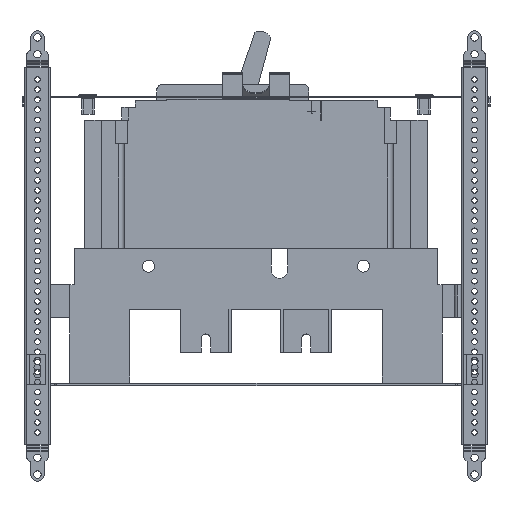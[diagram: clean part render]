
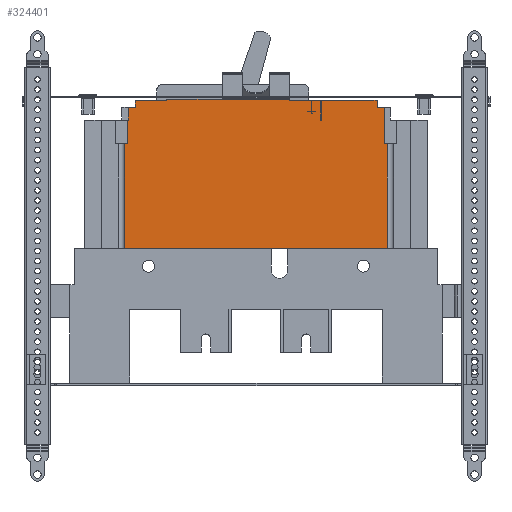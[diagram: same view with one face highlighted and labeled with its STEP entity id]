
A CAD part, left-side view. The second image highlights one B-rep face of the part: STEP entity #324401.
In plain terms, the highlighted planar face has unit normal (-1, 0, 0).
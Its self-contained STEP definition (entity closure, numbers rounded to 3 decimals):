
#322356=CARTESIAN_POINT(' ',(-214.311,-45.217,144.353));
#322361=DIRECTION(' ',(0.,1.,0.));
#322366=VECTOR(' ',#322361,1.);
#322371=LINE('',#322356,#322366);
#322376=CARTESIAN_POINT(' ',(-214.311,-45.217,144.353));
#322377=VERTEX_POINT(' ',#322376);
#322381=CARTESIAN_POINT(' ',(-214.311,-21.717,144.353));
#322382=VERTEX_POINT(' ',#322381);
#322386=EDGE_CURVE(' ',#322377,#322382,#322371,.T.);
#322796=CARTESIAN_POINT(' ',(-214.311,69.283,144.353));
#322797=VERTEX_POINT(' ',#322796);
#322941=CARTESIAN_POINT(' ',(-214.311,92.783,144.353));
#322942=VERTEX_POINT(' ',#322941);
#322956=CARTESIAN_POINT(' ',(-214.311,69.283,144.353));
#322961=DIRECTION(' ',(0.,1.,0.));
#322966=VECTOR(' ',#322961,1.);
#322971=LINE('',#322956,#322966);
#322976=EDGE_CURVE(' ',#322797,#322942,#322971,.T.);
#323151=CARTESIAN_POINT(' ',(-214.311,69.283,145.353));
#323156=DIRECTION(' ',(0.,0.,-1.));
#323161=VECTOR(' ',#323156,1.);
#323166=LINE('',#323151,#323161);
#323171=CARTESIAN_POINT(' ',(-214.311,69.283,145.353));
#323172=VERTEX_POINT(' ',#323171);
#323176=EDGE_CURVE(' ',#323172,#322797,#323166,.T.);
#323261=CARTESIAN_POINT(' ',(-214.311,69.283,145.353));
#323266=DIRECTION(' ',(0.,-1.,0.));
#323271=VECTOR(' ',#323266,1.);
#323276=LINE('',#323261,#323271);
#323281=CARTESIAN_POINT(' ',(-214.311,-21.717,145.353));
#323282=VERTEX_POINT(' ',#323281);
#323286=EDGE_CURVE(' ',#323172,#323282,#323276,.T.);
#323386=CARTESIAN_POINT(' ',(-214.311,-21.717,145.353));
#323391=DIRECTION(' ',(0.,0.,-1.));
#323396=VECTOR(' ',#323391,1.);
#323401=LINE('',#323386,#323396);
#323406=EDGE_CURVE(' ',#323282,#322382,#323401,.T.);
#323751=DIRECTION(' ',(-1.,0.,0.));
#323756=CARTESIAN_POINT(' ',(-214.311,-94.422,34.353));
#323761=DIRECTION(' ',(0.,-0.,1.));
#323766=AXIS2_PLACEMENT_3D(' ',#323756,#323751,#323761);
#323771=PLANE('NONE',#323766);
#323776=CARTESIAN_POINT(' ',(-214.311,-94.422,112.353));
#323781=DIRECTION(' ',(0.,1.,0.));
#323786=VECTOR(' ',#323781,1.);
#323791=LINE('',#323776,#323786);
#323796=CARTESIAN_POINT(' ',(-214.311,-94.422,112.353));
#323797=VERTEX_POINT(' ',#323796);
#323801=CARTESIAN_POINT(' ',(-214.311,-92.467,112.353));
#323802=VERTEX_POINT(' ',#323801);
#323806=EDGE_CURVE(' ',#323797,#323802,#323791,.T.);
#323811=ORIENTED_EDGE(' ',*,*,#323806,.T.);
#323816=CARTESIAN_POINT(' ',(-214.311,-92.467,139.353));
#323821=DIRECTION(' ',(0.,0.,-1.));
#323826=VECTOR(' ',#323821,1.);
#323831=LINE('',#323816,#323826);
#323836=CARTESIAN_POINT(' ',(-214.311,-92.467,139.353));
#323837=VERTEX_POINT(' ',#323836);
#323841=EDGE_CURVE(' ',#323837,#323802,#323831,.T.);
#323846=ORIENTED_EDGE(' ',*,*,#323841,.F.);
#323851=CARTESIAN_POINT(' ',(-214.311,-86.967,139.353));
#323856=DIRECTION(' ',(0.,-1.,0.));
#323861=VECTOR(' ',#323856,1.);
#323866=LINE('',#323851,#323861);
#323871=CARTESIAN_POINT(' ',(-214.311,-86.967,139.353));
#323872=VERTEX_POINT(' ',#323871);
#323876=EDGE_CURVE(' ',#323872,#323837,#323866,.T.);
#323881=ORIENTED_EDGE(' ',*,*,#323876,.F.);
#323886=CARTESIAN_POINT(' ',(-214.311,-86.967,144.753));
#323891=DIRECTION(' ',(0.,0.,-1.));
#323896=VECTOR(' ',#323891,1.);
#323901=LINE('',#323886,#323896);
#323906=CARTESIAN_POINT(' ',(-214.311,-86.967,144.753));
#323907=VERTEX_POINT(' ',#323906);
#323911=EDGE_CURVE(' ',#323907,#323872,#323901,.T.);
#323916=ORIENTED_EDGE(' ',*,*,#323911,.F.);
#323921=CARTESIAN_POINT(' ',(-214.311,-45.467,144.753));
#323926=DIRECTION(' ',(0.,-1.,0.));
#323931=VECTOR(' ',#323926,1.);
#323936=LINE('',#323921,#323931);
#323941=CARTESIAN_POINT(' ',(-214.311,-45.467,144.753));
#323942=VERTEX_POINT(' ',#323941);
#323946=EDGE_CURVE(' ',#323942,#323907,#323936,.T.);
#323951=ORIENTED_EDGE(' ',*,*,#323946,.F.);
#323956=CARTESIAN_POINT(' ',(-214.311,-45.467,129.853));
#323961=DIRECTION(' ',(0.,0.,1.));
#323966=VECTOR(' ',#323961,1.);
#323971=LINE('',#323956,#323966);
#323976=CARTESIAN_POINT(' ',(-214.311,-45.467,129.853));
#323977=VERTEX_POINT(' ',#323976);
#323981=EDGE_CURVE(' ',#323977,#323942,#323971,.T.);
#323986=ORIENTED_EDGE(' ',*,*,#323981,.F.);
#323991=CARTESIAN_POINT(' ',(-214.311,-45.217,129.853));
#323996=DIRECTION(' ',(0.,-1.,0.));
#324001=VECTOR(' ',#323996,1.);
#324006=LINE('',#323991,#324001);
#324011=CARTESIAN_POINT(' ',(-214.311,-45.217,129.853));
#324012=VERTEX_POINT(' ',#324011);
#324016=EDGE_CURVE(' ',#324012,#323977,#324006,.T.);
#324021=ORIENTED_EDGE(' ',*,*,#324016,.F.);
#324026=CARTESIAN_POINT(' ',(-214.311,-45.217,129.853));
#324031=DIRECTION(' ',(0.,0.,1.));
#324036=VECTOR(' ',#324031,1.);
#324041=LINE('',#324026,#324036);
#324046=EDGE_CURVE(' ',#324012,#322377,#324041,.T.);
#324051=ORIENTED_EDGE(' ',*,*,#324046,.T.);
#324056=ORIENTED_EDGE(' ',*,*,#322386,.T.);
#324061=ORIENTED_EDGE(' ',*,*,#323406,.F.);
#324066=ORIENTED_EDGE(' ',*,*,#323286,.F.);
#324071=ORIENTED_EDGE(' ',*,*,#323176,.T.);
#324076=ORIENTED_EDGE(' ',*,*,#322976,.T.);
#324081=CARTESIAN_POINT(' ',(-214.311,92.783,144.353));
#324086=DIRECTION(' ',(0.,0.,-1.));
#324091=VECTOR(' ',#324086,1.);
#324096=LINE('',#324081,#324091);
#324101=CARTESIAN_POINT(' ',(-214.311,92.783,139.353));
#324102=VERTEX_POINT(' ',#324101);
#324106=EDGE_CURVE(' ',#322942,#324102,#324096,.T.);
#324111=ORIENTED_EDGE(' ',*,*,#324106,.T.);
#324116=CARTESIAN_POINT(' ',(-214.311,92.783,139.353));
#324121=DIRECTION(' ',(0.,1.,0.));
#324126=VECTOR(' ',#324121,1.);
#324131=LINE('',#324116,#324126);
#324136=CARTESIAN_POINT(' ',(-214.311,98.033,139.353));
#324137=VERTEX_POINT(' ',#324136);
#324141=EDGE_CURVE(' ',#324102,#324137,#324131,.T.);
#324146=ORIENTED_EDGE(' ',*,*,#324141,.T.);
#324151=CARTESIAN_POINT(' ',(-214.311,98.033,139.353));
#324156=DIRECTION(' ',(0.,0.,-1.));
#324161=VECTOR(' ',#324156,1.);
#324166=LINE('',#324151,#324161);
#324171=CARTESIAN_POINT(' ',(-214.311,98.033,129.853));
#324172=VERTEX_POINT(' ',#324171);
#324176=EDGE_CURVE(' ',#324137,#324172,#324166,.T.);
#324181=ORIENTED_EDGE(' ',*,*,#324176,.T.);
#324186=CARTESIAN_POINT(' ',(-214.311,98.533,129.853));
#324191=DIRECTION(' ',(0.,-1.,0.));
#324196=VECTOR(' ',#324191,1.);
#324201=LINE('',#324186,#324196);
#324206=CARTESIAN_POINT(' ',(-214.311,98.533,129.853));
#324207=VERTEX_POINT(' ',#324206);
#324211=EDGE_CURVE(' ',#324207,#324172,#324201,.T.);
#324216=ORIENTED_EDGE(' ',*,*,#324211,.F.);
#324221=CARTESIAN_POINT(' ',(-214.311,98.533,129.853));
#324226=DIRECTION(' ',(0.,0.,-1.));
#324231=VECTOR(' ',#324226,1.);
#324236=LINE('',#324221,#324231);
#324241=CARTESIAN_POINT(' ',(-214.311,98.533,112.353));
#324242=VERTEX_POINT(' ',#324241);
#324246=EDGE_CURVE(' ',#324207,#324242,#324236,.T.);
#324251=ORIENTED_EDGE(' ',*,*,#324246,.T.);
#324256=CARTESIAN_POINT(' ',(-214.311,100.487,112.353));
#324261=DIRECTION(' ',(0.,-1.,0.));
#324266=VECTOR(' ',#324261,1.);
#324271=LINE('',#324256,#324266);
#324276=CARTESIAN_POINT(' ',(-214.311,100.487,112.353));
#324277=VERTEX_POINT(' ',#324276);
#324281=EDGE_CURVE(' ',#324277,#324242,#324271,.T.);
#324286=ORIENTED_EDGE(' ',*,*,#324281,.F.);
#324291=CARTESIAN_POINT(' ',(-214.311,100.487,112.353));
#324296=DIRECTION(' ',(0.,0.,-1.));
#324301=VECTOR(' ',#324296,1.);
#324306=LINE('',#324291,#324301);
#324311=CARTESIAN_POINT(' ',(-214.311,100.487,34.353));
#324312=VERTEX_POINT(' ',#324311);
#324316=EDGE_CURVE(' ',#324277,#324312,#324306,.T.);
#324321=ORIENTED_EDGE(' ',*,*,#324316,.T.);
#324326=CARTESIAN_POINT(' ',(-214.311,-94.422,34.353));
#324331=DIRECTION(' ',(0.,1.,0.));
#324336=VECTOR(' ',#324331,1.);
#324341=LINE('',#324326,#324336);
#324346=CARTESIAN_POINT(' ',(-214.311,-94.422,34.353));
#324347=VERTEX_POINT(' ',#324346);
#324351=EDGE_CURVE(' ',#324347,#324312,#324341,.T.);
#324356=ORIENTED_EDGE(' ',*,*,#324351,.F.);
#324361=CARTESIAN_POINT(' ',(-214.311,-94.422,34.353));
#324366=DIRECTION(' ',(0.,0.,1.));
#324371=VECTOR(' ',#324366,1.);
#324376=LINE('',#324361,#324371);
#324381=EDGE_CURVE(' ',#324347,#323797,#324376,.T.);
#324386=ORIENTED_EDGE(' ',*,*,#324381,.T.);
#324391=EDGE_LOOP(' ',(#323811,#323846,#323881,#323916,#323951,#323986,#324021,#324051,#324056,#324061,#324066,#324071,#324076,#324111,#324146,#324181,#324216,#324251,#324286,#324321,#324356,#324386));
#324396=FACE_OUTER_BOUND(' ',#324391,.T.);
#324401=ADVANCED_FACE('NONE',(#324396),#323771,.T.);
